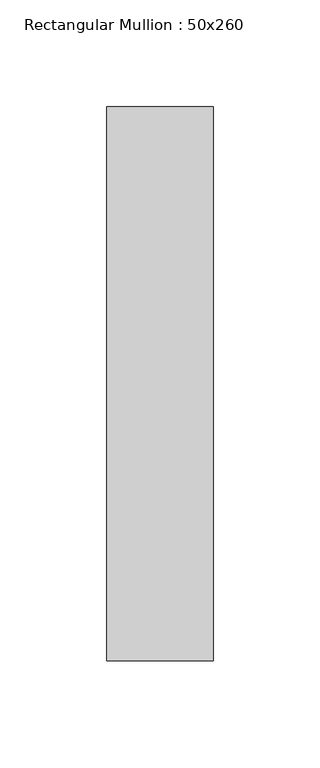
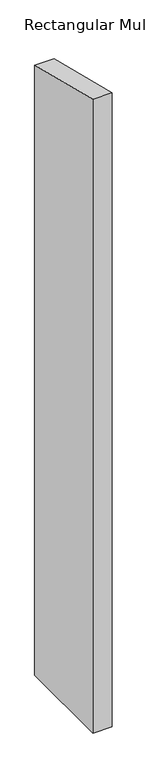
"""IFC4 building model written with IfcOpenShell, lengths in millimetres: member geometry, Rectangular Mullion : 50x260."""

from ifc_helpers import new_model, si_unit, frame, origin, place, context, project, spatial, polyline, outline, extrude, source, transform, mapped, element, save


def rectangular_mullion_50x260_63e45254(model_context):
    return source(origin(), model_context, "Body", "SweptSolid", [
        extrude(outline(polyline([(-130.0, 32.5863402), (130.0, -32.5863402), (130.0, -1697.3972726), (-130.0, -1697.3972726), (-130.0, 32.5863402)])), frame((-50.0, 0.0, 0.0), z_axis=(1.0, 0.0, 0.0), x_axis=(0.0, 1.0, 0.0)), (0.0, 0.0, 1.0), 50.0),
    ])


if __name__ == "__main__":
    model = new_model("IFC4")
    model_context = context("Model", 3, world=origin())
    ifc_project = project(units=[si_unit("LENGTHUNIT", "METRE", prefix="MILLI")], contexts=[model_context])
    site = spatial("IfcSite", under=ifc_project)
    building = spatial("IfcBuilding", under=site)
    placement = place(None, origin())
    rectangular_mullion_50x260_shape = rectangular_mullion_50x260_63e45254(model_context)
    element("IfcMember", 1, ObjectType="Rectangular Mullion : 50x260", at=placement, inside=building, context=model_context, shape_type="MappedRepresentation", body=[
        mapped(rectangular_mullion_50x260_shape, transform((0.0, 0.0, 0.0), x_axis=(1.0, 0.0, 0.0), y_axis=(0.0, 1.0, 0.0), z_axis=(0.0, 0.0, 1.0))),
    ])
    save(model, "model.ifc")
